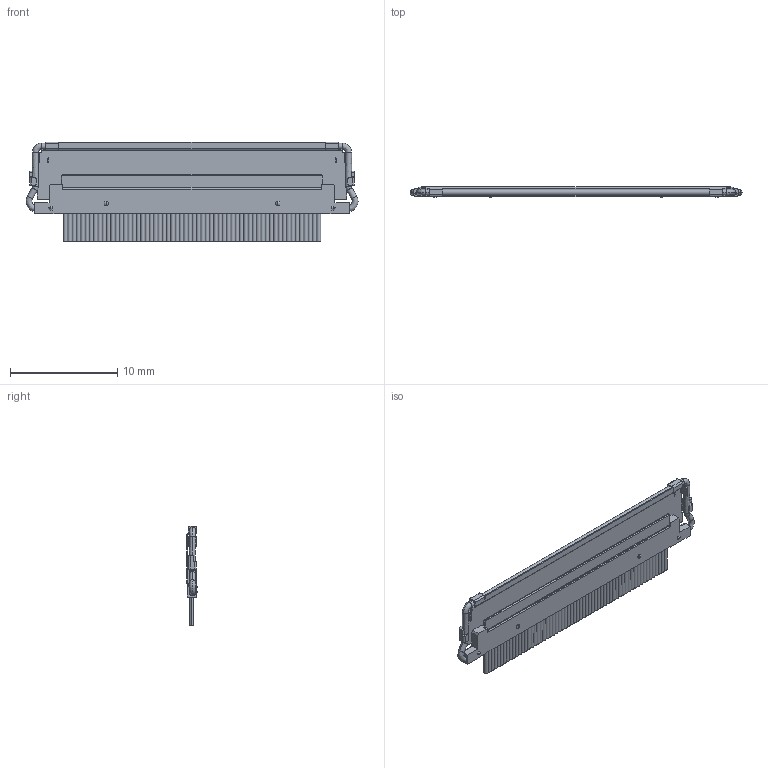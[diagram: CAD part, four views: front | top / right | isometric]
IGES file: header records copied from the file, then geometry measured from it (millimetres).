
Start section: SolidWorks IGES file using analytic representation for surfaces
Global section: file name: C:\3dworks\‘C‰i\CAII PLUS 60P STEP 161111\PLUG RECE\60P PLUS PLUG IGES.IGS; native system: SolidWorks 2014; preprocessor: SolidWorks 2014; author: ieng2-005; date: 170519.182314; units: millimetre
Bounding box: 30.95 x 0.95 x 9.3 mm (x, y, z)
Surface area: 786.6 mm2 (no closed solid volume)
Topology: 0 solids, 0 shells, 771 faces, 6444 edges, 6444 vertices
Faces by surface type: bspline 480, revolution 291
